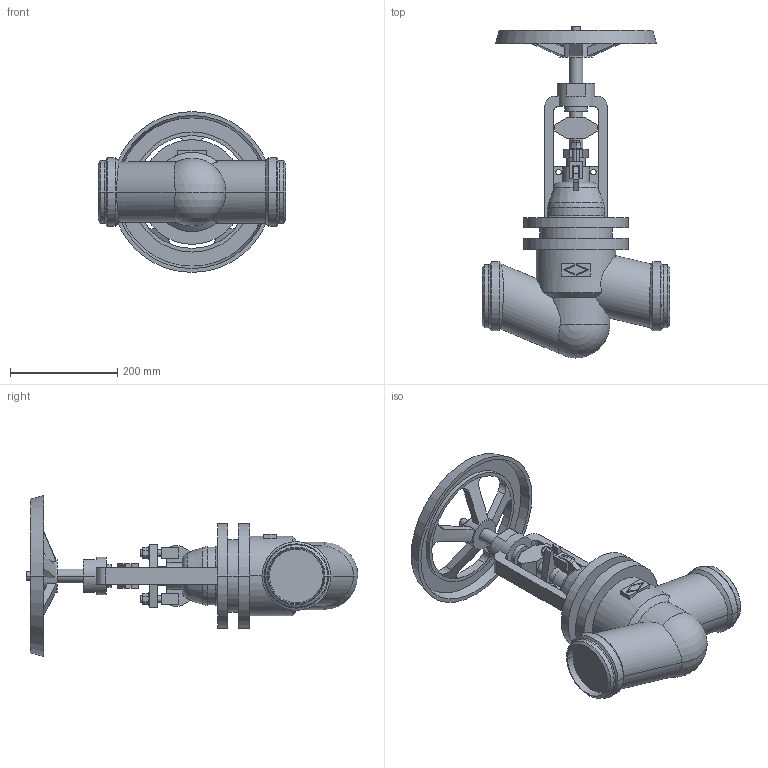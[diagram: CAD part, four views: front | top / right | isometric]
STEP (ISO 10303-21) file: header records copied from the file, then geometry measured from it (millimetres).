
FILE_DESCRIPTION(('OneSpaceDesigner STEP Export'),'2;1');
FILE_NAME('c000004333.stp','2010-05-06T10:57:32',(''),(''),'OneSpace Designer STEP processor for AP214 (Solid Model)','OneSpace Modeling 15.50B 03-Nov-2007 (C) CoCreate Software GmbH','');
FILE_SCHEMA(('AUTOMOTIVE_DESIGN { 1 0 10303 214 1 1 1 1 }'));
Length unit declared in the file: millimetre
Products named in the file (1): 1
Bounding box: 350 x 618.9 x 300 mm (x, y, z)
Volume: 8376697.4 mm3; surface area: 572330.6 mm2
Topology: 1 solids, 1 shells, 290 faces, 751 edges, 482 vertices
Faces by surface type: plane 145, cylinder 89, cone 38, torus 16, sphere 2
Entity records: 11651 total; most frequent: CARTESIAN_POINT 2642, ORIENTED_EDGE 1498, DIRECTION 1239, EDGE_CURVE 749, VERTEX_POINT 482, AXIS2_PLACEMENT_3D 416, VECTOR 407, LINE 407
